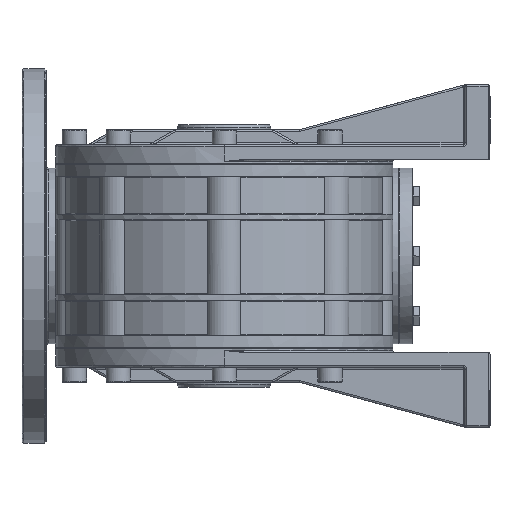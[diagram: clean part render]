
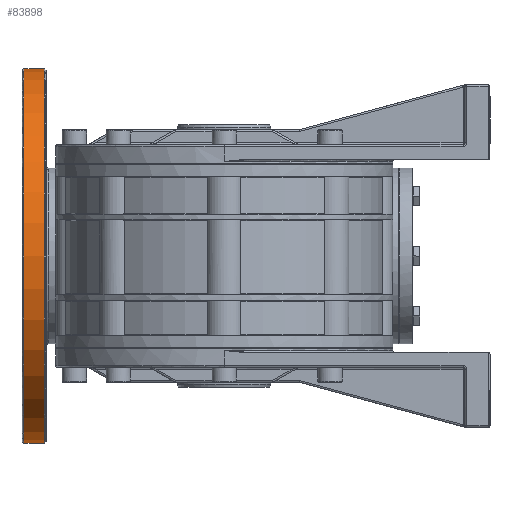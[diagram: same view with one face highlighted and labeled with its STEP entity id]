
A CAD part, front view. The second image highlights one B-rep face of the part: STEP entity #83898.
In plain terms, the highlighted cylindrical face has radius 100 mm (diameter 200 mm), a partial arc.
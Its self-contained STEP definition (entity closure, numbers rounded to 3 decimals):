
#67932 = EDGE_CURVE ( 'NONE', #67934, #67935, #105914, .T. ) ;
#67934 = VERTEX_POINT ( 'NONE', #105906 ) ;
#67935 = VERTEX_POINT ( 'NONE', #105903 ) ;
#81507 = EDGE_CURVE ( 'NONE', #67934, #81510, #226397, .T. ) ;
#81510 = VERTEX_POINT ( 'NONE', #226595 ) ;
#81519 = VERTEX_POINT ( 'NONE', #226569 ) ;
#81523 = EDGE_CURVE ( 'NONE', #67935, #81519, #226561, .T. ) ;
#83124 = EDGE_CURVE ( 'NONE', #81510, #81519, #175794, .T. ) ;
#83885 = ORIENTED_EDGE ( 'NONE', *, *, #83124, .F. ) ;
#83898 = ADVANCED_FACE ( 'NONE', ( #135246 ), #135245, .T. ) ;
#83902 = EDGE_LOOP ( 'NONE', ( #83929, #83904, #83906, #83885 ) ) ;
#83904 = ORIENTED_EDGE ( 'NONE', *, *, #67932, .T. ) ;
#83906 = ORIENTED_EDGE ( 'NONE', *, *, #81523, .T. ) ;
#83929 = ORIENTED_EDGE ( 'NONE', *, *, #81507, .F. ) ;
#105903 = CARTESIAN_POINT ( 'NONE',  ( -107., 80., -51.35 ) ) ;
#105906 = CARTESIAN_POINT ( 'NONE',  ( -107., 80., 148.65 ) ) ;
#105908 = DIRECTION ( 'NONE',  ( 0., 0., -1. ) ) ;
#105910 = DIRECTION ( 'NONE',  ( 1., 0., 0. ) ) ;
#105912 = CARTESIAN_POINT ( 'NONE',  ( -107., 80., 48.65 ) ) ;
#105913 = AXIS2_PLACEMENT_3D ( 'NONE', #105912, #105910, #105908 ) ;
#105914 = CIRCLE ( 'NONE', #105913, 100. ) ;
#135232 = DIRECTION ( 'NONE',  ( 0., 0., -1. ) ) ;
#135233 = DIRECTION ( 'NONE',  ( 1., 0., 0. ) ) ;
#135235 = AXIS2_PLACEMENT_3D ( 'NONE', #135244, #135233, #135232 ) ;
#135244 = CARTESIAN_POINT ( 'NONE',  ( -101.5, 80., 48.65 ) ) ;
#135245 = CYLINDRICAL_SURFACE ( 'NONE', #135235, 100. ) ;
#135246 = FACE_OUTER_BOUND ( 'NONE', #83902, .T. ) ;
#175785 = DIRECTION ( 'NONE',  ( 0., -1., 0. ) ) ;
#175786 = DIRECTION ( 'NONE',  ( 1., 0., 0. ) ) ;
#175787 = CARTESIAN_POINT ( 'NONE',  ( -96., 80., 48.65 ) ) ;
#175788 = AXIS2_PLACEMENT_3D ( 'NONE', #175787, #175786, #175785 ) ;
#175794 = CIRCLE ( 'NONE', #175788, 100. ) ;
#226396 = CARTESIAN_POINT ( 'NONE',  ( -101.5, 80., 148.65 ) ) ;
#226397 = LINE ( 'NONE', #226396, #226599 ) ;
#226554 = DIRECTION ( 'NONE',  ( 1., 0., 0. ) ) ;
#226556 = VECTOR ( 'NONE', #226554, 1000. ) ;
#226559 = CARTESIAN_POINT ( 'NONE',  ( -101.5, 80., -51.35 ) ) ;
#226561 = LINE ( 'NONE', #226559, #226556 ) ;
#226569 = CARTESIAN_POINT ( 'NONE',  ( -96., 80., -51.35 ) ) ;
#226595 = CARTESIAN_POINT ( 'NONE',  ( -96., 80., 148.65 ) ) ;
#226597 = DIRECTION ( 'NONE',  ( 1., 0., 0. ) ) ;
#226599 = VECTOR ( 'NONE', #226597, 1000. ) ;
